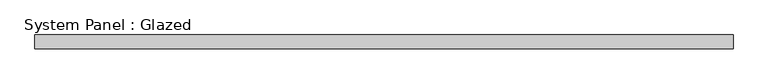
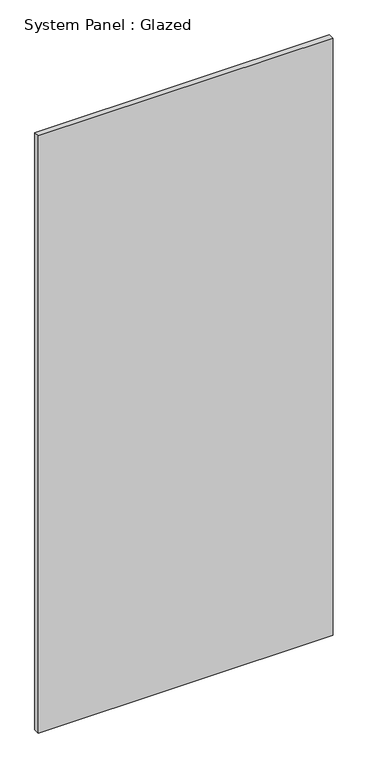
"""IFC4 building model written with IfcOpenShell, lengths in millimetres: plate geometry, System Panel : Glazed."""

from ifc_helpers import new_model, si_unit, origin, origin_with_axes, place, context, project, spatial, polyline, outline, extrude, source, transform, mapped, element, save


def system_panel_glazed_3a20483a(model_context):
    return source(origin(), model_context, "Body", "SweptSolid", [
        extrude(outline(polyline([(651.3841868, 19.05), (-651.3841868, 19.05), (-651.3841868, 44.45), (651.3841868, 44.45), (651.3841868, 19.05)])), origin_with_axes(), (0.0, 0.0, 1.0), 2788.92),
    ])


if __name__ == "__main__":
    model = new_model("IFC4")
    model_context = context("Model", 3, world=origin())
    ifc_project = project(units=[si_unit("LENGTHUNIT", "METRE", prefix="MILLI")], contexts=[model_context])
    site = spatial("IfcSite", under=ifc_project)
    building = spatial("IfcBuilding", under=site)
    placement = place(None, origin())
    system_panel_glazed_shape = system_panel_glazed_3a20483a(model_context)
    element("IfcPlate", 1, ObjectType="System Panel : Glazed", at=placement, inside=building, context=model_context, shape_type="MappedRepresentation", body=[
        mapped(system_panel_glazed_shape, transform((0.0, 0.0, 0.0), x_axis=(1.0, 0.0, 0.0), y_axis=(0.0, 1.0, 0.0), z_axis=(0.0, 0.0, 1.0))),
    ])
    save(model, "model.ifc")
